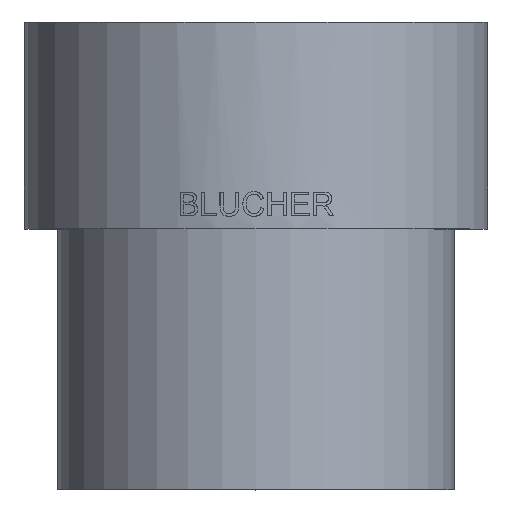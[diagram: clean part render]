
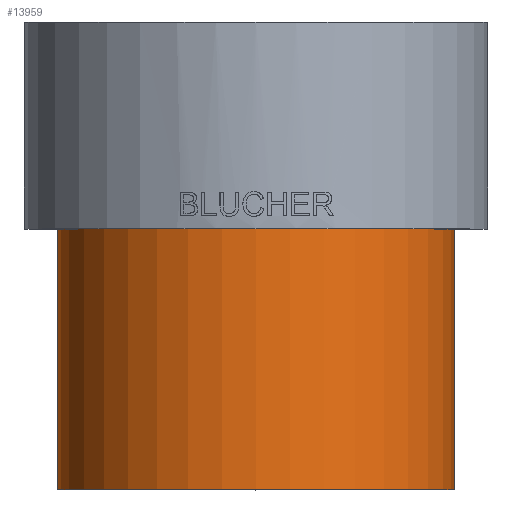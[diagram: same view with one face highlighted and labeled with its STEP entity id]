
A CAD part, top view. The second image highlights one B-rep face of the part: STEP entity #13959.
In plain terms, the highlighted cylindrical face has radius 76.2 mm (diameter 152.4 mm), a full revolution.
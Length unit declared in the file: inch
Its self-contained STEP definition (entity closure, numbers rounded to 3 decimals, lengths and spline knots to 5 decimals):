
#13928=CARTESIAN_POINT('',(3.0,3.9375,0.0));
#13929=VERTEX_POINT('',#13928);
#13930=CARTESIAN_POINT('',(0.0,3.9375,0.0));
#13931=DIRECTION('',(0.0,-1.0,0.0));
#13932=DIRECTION('',(1.0,0.0,0.0));
#13933=AXIS2_PLACEMENT_3D('',#13930,#13931,#13932);
#13934=CIRCLE('',#13933,3.0);
#13935=EDGE_CURVE('',#13929,#13929,#13934,.T.);
#13940=CARTESIAN_POINT('',(0.0,1.96875,0.0));
#13941=DIRECTION('',(0.0,-1.0,0.0));
#13942=DIRECTION('',(1.0,0.0,0.0));
#13943=AXIS2_PLACEMENT_3D('',#13940,#13941,#13942);
#13944=CYLINDRICAL_SURFACE('',#13943,3.0);
#13945=CARTESIAN_POINT('',(3.0,0.0,0.0));
#13946=VERTEX_POINT('',#13945);
#13947=CARTESIAN_POINT('',(0.0,0.0,0.0));
#13948=DIRECTION('',(0.0,-1.0,0.0));
#13949=DIRECTION('',(1.0,0.0,0.0));
#13950=AXIS2_PLACEMENT_3D('',#13947,#13948,#13949);
#13951=CIRCLE('',#13950,3.0);
#13952=EDGE_CURVE('',#13946,#13946,#13951,.T.);
#13953=ORIENTED_EDGE('',*,*,#13952,.F.);
#13954=EDGE_LOOP('',(#13953));
#13955=FACE_OUTER_BOUND('',#13954,.T.);
#13956=ORIENTED_EDGE('',*,*,#13935,.T.);
#13957=EDGE_LOOP('',(#13956));
#13958=FACE_BOUND('',#13957,.T.);
#13959=ADVANCED_FACE('',(#13955,#13958),#13944,.T.);
